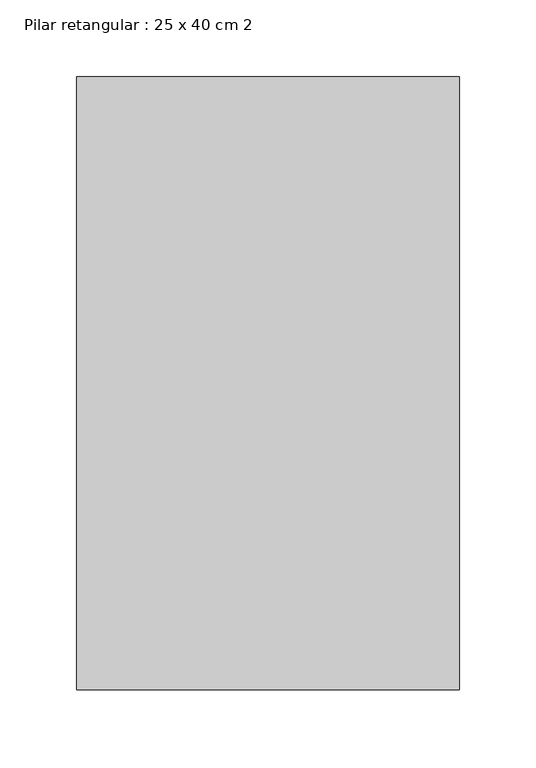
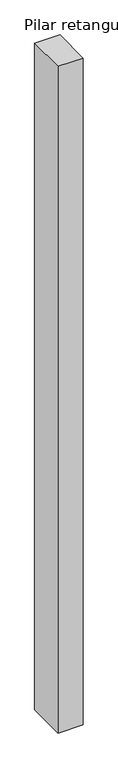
"""IFC4 building model written with IfcOpenShell, lengths in millimetres: column geometry, Pilar retangular : 25 x 40 cm 2."""

from ifc_helpers import new_model, si_unit, origin, origin_with_axes, place, context, project, spatial, polyline, outline, extrude, source, transform, mapped, element, save


def pilar_retangular_25_x_40_cm_2_9367b00e(model_context):
    return source(origin(), model_context, "Body", "SweptSolid", [
        extrude(outline(polyline([(125.0, 200.0), (125.0, -200.0), (-125.0, -200.0), (-125.0, 200.0), (125.0, 200.0)])), origin_with_axes(), (0.0, 0.0, 1.0), 7000.0),
    ])


if __name__ == "__main__":
    model = new_model("IFC4")
    model_context = context("Model", 3, world=origin())
    ifc_project = project(units=[si_unit("LENGTHUNIT", "METRE", prefix="MILLI")], contexts=[model_context])
    site = spatial("IfcSite", under=ifc_project)
    building = spatial("IfcBuilding", under=site)
    placement = place(None, origin())
    pilar_retangular_25_x_40_cm_2_shape = pilar_retangular_25_x_40_cm_2_9367b00e(model_context)
    element("IfcColumn", 1, ObjectType="Pilar retangular : 25 x 40 cm 2", at=placement, inside=building, context=model_context, shape_type="MappedRepresentation", body=[
        mapped(pilar_retangular_25_x_40_cm_2_shape, transform((0.0, 0.0, 0.0), x_axis=(1.0, 0.0, 0.0), y_axis=(0.0, 1.0, 0.0), z_axis=(0.0, 0.0, 1.0))),
    ])
    save(model, "model.ifc")
